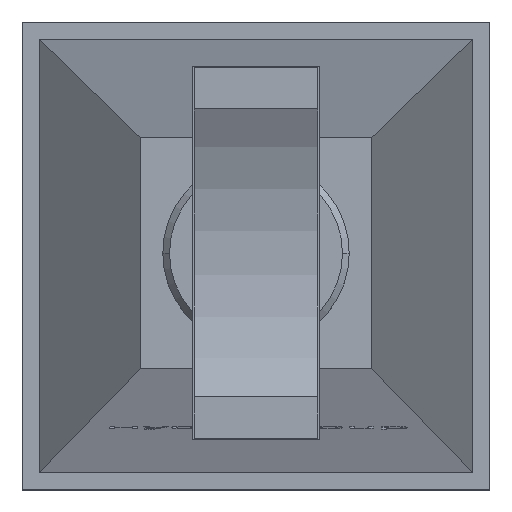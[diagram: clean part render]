
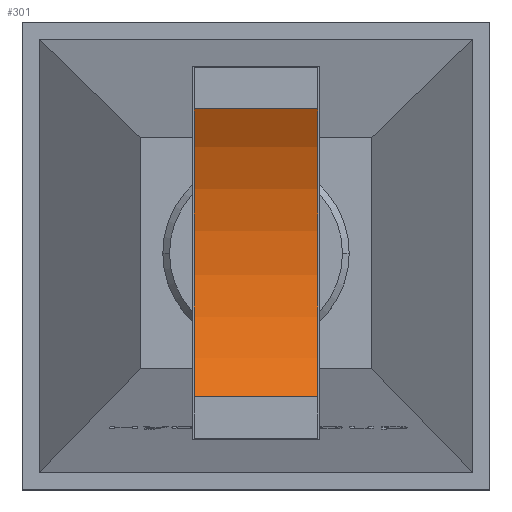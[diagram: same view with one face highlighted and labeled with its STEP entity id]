
A CAD part, top view. The second image highlights one B-rep face of the part: STEP entity #301.
In plain terms, the highlighted cylindrical face has radius 161.95 mm (diameter 323.9 mm), a partial arc.
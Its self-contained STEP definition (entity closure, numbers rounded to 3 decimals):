
#301=ADVANCED_FACE('',(#790),#791,.F.);
#790=FACE_OUTER_BOUND('',#1520,.T.);
#791=CYLINDRICAL_SURFACE('',#1521,161.95);
#1520=EDGE_LOOP('',(#2248,#2249,#2250,#2251));
#1521=AXIS2_PLACEMENT_3D('',#2252,#2253,#2254);
#2248=ORIENTED_EDGE('',*,*,#4453,.T.);
#2249=ORIENTED_EDGE('',*,*,#4454,.F.);
#2250=ORIENTED_EDGE('',*,*,#4455,.T.);
#2251=ORIENTED_EDGE('',*,*,#4450,.T.);
#2252=CARTESIAN_POINT('',(450.639,583.401,605.975));
#2253=DIRECTION('',(1.0,0.,0.));
#2254=DIRECTION('',(0.,1.0,0.));
#4450=EDGE_CURVE('',#5231,#5229,#5232,.T.);
#4453=EDGE_CURVE('',#5229,#5235,#5236,.T.);
#4454=EDGE_CURVE('',#5237,#5235,#5238,.T.);
#4455=EDGE_CURVE('',#5237,#5231,#5239,.T.);
#5229=VERTEX_POINT('',#6366);
#5231=VERTEX_POINT('',#6369);
#5232=LINE('',#6370,#6371);
#5235=VERTEX_POINT('',#6375);
#5236=CIRCLE('',#6376,161.95);
#5237=VERTEX_POINT('',#6377);
#5238=LINE('',#6378,#6379);
#5239=CIRCLE('',#6380,161.95);
#6366=CARTESIAN_POINT('',(523.639,498.562,468.025));
#6369=CARTESIAN_POINT('',(450.639,498.562,468.025));
#6370=CARTESIAN_POINT('',(450.639,498.562,468.025));
#6371=VECTOR('',#8399,1.0);
#6375=CARTESIAN_POINT('',(523.639,668.24,468.025));
#6376=AXIS2_PLACEMENT_3D('',#8401,#8402,#8403);
#6377=CARTESIAN_POINT('',(450.639,668.24,468.025));
#6378=CARTESIAN_POINT('',(450.639,668.24,468.025));
#6379=VECTOR('',#8404,1.0);
#6380=AXIS2_PLACEMENT_3D('',#8405,#8406,#8407);
#8399=DIRECTION('',(1.0,0.,0.));
#8401=CARTESIAN_POINT('',(523.639,583.401,605.975));
#8402=DIRECTION('',(1.0,0.,0.));
#8403=DIRECTION('',(0.,1.0,0.));
#8404=DIRECTION('',(1.0,0.,0.));
#8405=CARTESIAN_POINT('',(450.639,583.401,605.975));
#8406=DIRECTION('',(-1.0,0.,0.));
#8407=DIRECTION('',(0.,1.0,0.));
